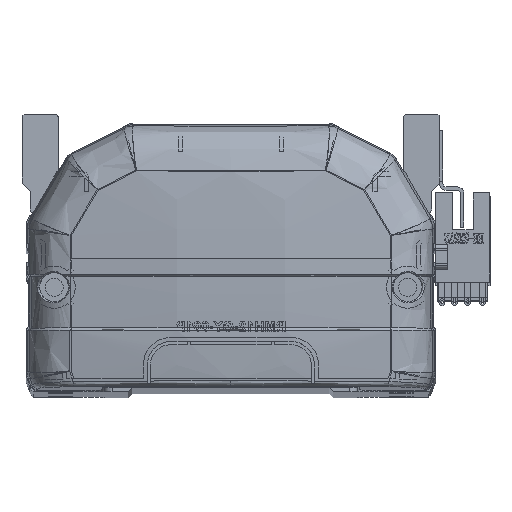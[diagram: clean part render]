
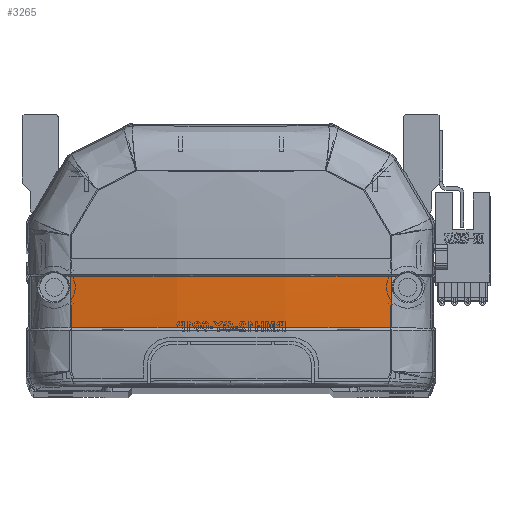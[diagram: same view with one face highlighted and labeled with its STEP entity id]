
A CAD part, top view. The second image highlights one B-rep face of the part: STEP entity #3265.
In plain terms, the highlighted free-form (B-spline) face has degree [3, 3] with [4, 4] control points.
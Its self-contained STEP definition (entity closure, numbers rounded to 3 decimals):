
#915 = CARTESIAN_POINT ( 'NONE',  ( 39.985, 15.83, -5.879 ) ) ;
#1500 = B_SPLINE_CURVE_WITH_KNOTS ( 'NONE', 3,
 ( #46744, #24427, #28549, #39472, #17021, #35517, #35351, #43412, #31853, #13337 ),
 .UNSPECIFIED., .F., .F.,
 ( 4, 2, 2, 2, 4 ),
 ( 0., 0.04, 0.06, 0.07, 0.08 ),
 .UNSPECIFIED. ) ;
#1762 = CARTESIAN_POINT ( 'NONE',  ( 39.963, 28.706, -6.372 ) ) ;
#1995 = EDGE_CURVE ( 'NONE', #27057, #11144, #24959, .T. ) ;
#2452 = CARTESIAN_POINT ( 'NONE',  ( 39.966, 24.413, -6.306 ) ) ;
#3265 = ADVANCED_FACE ( 'NONE', ( #41275 ), #15068, .F. ) ;
#4731 = CARTESIAN_POINT ( 'NONE',  ( -39.963, 28.706, -6.372 ) ) ;
#6624 = ORIENTED_EDGE ( 'NONE', *, *, #49063, .F. ) ;
#8302 = CARTESIAN_POINT ( 'NONE',  ( -13.598, 28.769, -10.535 ) ) ;
#8631 = CARTESIAN_POINT ( 'NONE',  ( 13.598, 19.918, -10.302 ) ) ;
#9379 = CARTESIAN_POINT ( 'NONE',  ( 13.375, 28.707, -9.468 ) ) ;
#10855 = EDGE_CURVE ( 'NONE', #27057, #48286, #26242, .T. ) ;
#11144 = VERTEX_POINT ( 'NONE', #30391 ) ;
#11264 = ORIENTED_EDGE ( 'NONE', *, *, #10855, .F. ) ;
#12606 = CARTESIAN_POINT ( 'NONE',  ( -13.598, 19.918, -10.302 ) ) ;
#13337 = CARTESIAN_POINT ( 'NONE',  ( -39.985, 15.83, -5.879 ) ) ;
#15068 =( BOUNDED_SURFACE ( )  B_SPLINE_SURFACE ( 3, 3, ( 
 ( #19796, #46519, #46199, #30987 ),
 ( #27494, #8631, #42557, #35281 ),
 ( #20115, #12606, #27337, #8302 ),
 ( #38426, #35112, #46668, #39061 ) ),
 .UNSPECIFIED., .F., .F., .T. ) 
 B_SPLINE_SURFACE_WITH_KNOTS ( ( 4, 4 ),
 ( 4, 4 ),
 ( 0., 1. ),
 ( 0., 1. ),
 .UNSPECIFIED. ) 
 GEOMETRIC_REPRESENTATION_ITEM ( )  RATIONAL_B_SPLINE_SURFACE ( (
 ( 1., 1., 1., 1.),
 ( 0.992, 0.992, 0.992, 0.992),
 ( 0.992, 0.992, 0.992, 0.992),
 ( 1., 1., 1., 1.) ) ) 
 REPRESENTATION_ITEM ( '' )  SURFACE ( )  );
#17021 = CARTESIAN_POINT ( 'NONE',  ( -13.384, 15.83, -8.724 ) ) ;
#17763 = CARTESIAN_POINT ( 'NONE',  ( 39.963, 28.706, -6.372 ) ) ;
#19796 = CARTESIAN_POINT ( 'NONE',  ( 40.461, 15.757, -5.8 ) ) ;
#20115 = CARTESIAN_POINT ( 'NONE',  ( -13.598, 15.499, -10.032 ) ) ;
#23363 = CARTESIAN_POINT ( 'NONE',  ( -39.963, 28.706, -6.372 ) ) ;
#24427 = CARTESIAN_POINT ( 'NONE',  ( 26.761, 15.83, -7.945 ) ) ;
#24841 = CARTESIAN_POINT ( 'NONE',  ( 39.985, 15.83, -5.879 ) ) ;
#24955 = CARTESIAN_POINT ( 'NONE',  ( 26.749, 28.706, -8.432 ) ) ;
#24959 = B_SPLINE_CURVE_WITH_KNOTS ( 'NONE', 3,
 ( #23363, #26840, #30645, #34579 ),
 .UNSPECIFIED., .F., .F.,
 ( 4, 4 ),
 ( 0., 1. ),
 .UNSPECIFIED. ) ;
#26242 = B_SPLINE_CURVE_WITH_KNOTS ( 'NONE', 3,
 ( #47260, #43297, #32051, #9379, #24955, #1762 ),
 .UNSPECIFIED., .F., .F.,
 ( 4, 2, 4 ),
 ( 0., 0.5, 1. ),
 .UNSPECIFIED. ) ;
#26840 = CARTESIAN_POINT ( 'NONE',  ( -39.966, 24.412, -6.306 ) ) ;
#27057 = VERTEX_POINT ( 'NONE', #4731 ) ;
#27337 = CARTESIAN_POINT ( 'NONE',  ( -13.598, 24.342, -10.47 ) ) ;
#27494 = CARTESIAN_POINT ( 'NONE',  ( 13.598, 15.499, -10.032 ) ) ;
#28549 = CARTESIAN_POINT ( 'NONE',  ( 13.38, 15.83, -8.984 ) ) ;
#29688 = ORIENTED_EDGE ( 'NONE', *, *, #1995, .T. ) ;
#30391 = CARTESIAN_POINT ( 'NONE',  ( -39.985, 15.83, -5.879 ) ) ;
#30645 = CARTESIAN_POINT ( 'NONE',  ( -39.973, 20.118, -6.142 ) ) ;
#30987 = CARTESIAN_POINT ( 'NONE',  ( 40.461, 28.832, -6.296 ) ) ;
#31226 = B_SPLINE_CURVE_WITH_KNOTS ( 'NONE', 3,
 ( #24841, #32253, #2452, #17763 ),
 .UNSPECIFIED., .F., .F.,
 ( 4, 4 ),
 ( 0., 1. ),
 .UNSPECIFIED. ) ;
#31853 = CARTESIAN_POINT ( 'NONE',  ( -36.679, 15.83, -6.395 ) ) ;
#32051 = CARTESIAN_POINT ( 'NONE',  ( -13.373, 28.707, -9.468 ) ) ;
#32253 = CARTESIAN_POINT ( 'NONE',  ( 39.973, 20.12, -6.142 ) ) ;
#34579 = CARTESIAN_POINT ( 'NONE',  ( -39.985, 15.83, -5.879 ) ) ;
#34798 = ORIENTED_EDGE ( 'NONE', *, *, #38578, .T. ) ;
#35112 = CARTESIAN_POINT ( 'NONE',  ( -40.461, 20.111, -6.066 ) ) ;
#35281 = CARTESIAN_POINT ( 'NONE',  ( 13.598, 28.769, -10.535 ) ) ;
#35351 = CARTESIAN_POINT ( 'NONE',  ( -26.721, 15.83, -7.624 ) ) ;
#35517 = CARTESIAN_POINT ( 'NONE',  ( -23.389, 15.83, -7.947 ) ) ;
#37572 = EDGE_LOOP ( 'NONE', ( #34798, #11264, #29688, #6624 ) ) ;
#38426 = CARTESIAN_POINT ( 'NONE',  ( -40.461, 15.757, -5.8 ) ) ;
#38578 = EDGE_CURVE ( 'NONE', #40226, #48286, #31226, .T. ) ;
#39061 = CARTESIAN_POINT ( 'NONE',  ( -40.461, 28.832, -6.296 ) ) ;
#39472 = CARTESIAN_POINT ( 'NONE',  ( -6.692, 15.83, -8.984 ) ) ;
#40226 = VERTEX_POINT ( 'NONE', #915 ) ;
#41275 = FACE_OUTER_BOUND ( 'NONE', #37572, .T. ) ;
#41528 = CARTESIAN_POINT ( 'NONE',  ( 39.963, 28.706, -6.372 ) ) ;
#42557 = CARTESIAN_POINT ( 'NONE',  ( 13.598, 24.342, -10.47 ) ) ;
#43297 = CARTESIAN_POINT ( 'NONE',  ( -26.748, 28.706, -8.432 ) ) ;
#43412 = CARTESIAN_POINT ( 'NONE',  ( -33.365, 15.83, -6.848 ) ) ;
#46199 = CARTESIAN_POINT ( 'NONE',  ( 40.461, 24.47, -6.231 ) ) ;
#46519 = CARTESIAN_POINT ( 'NONE',  ( 40.461, 20.111, -6.066 ) ) ;
#46668 = CARTESIAN_POINT ( 'NONE',  ( -40.461, 24.47, -6.231 ) ) ;
#46744 = CARTESIAN_POINT ( 'NONE',  ( 39.985, 15.83, -5.879 ) ) ;
#47260 = CARTESIAN_POINT ( 'NONE',  ( -39.963, 28.706, -6.372 ) ) ;
#48286 = VERTEX_POINT ( 'NONE', #41528 ) ;
#49063 = EDGE_CURVE ( 'NONE', #40226, #11144, #1500, .T. ) ;
